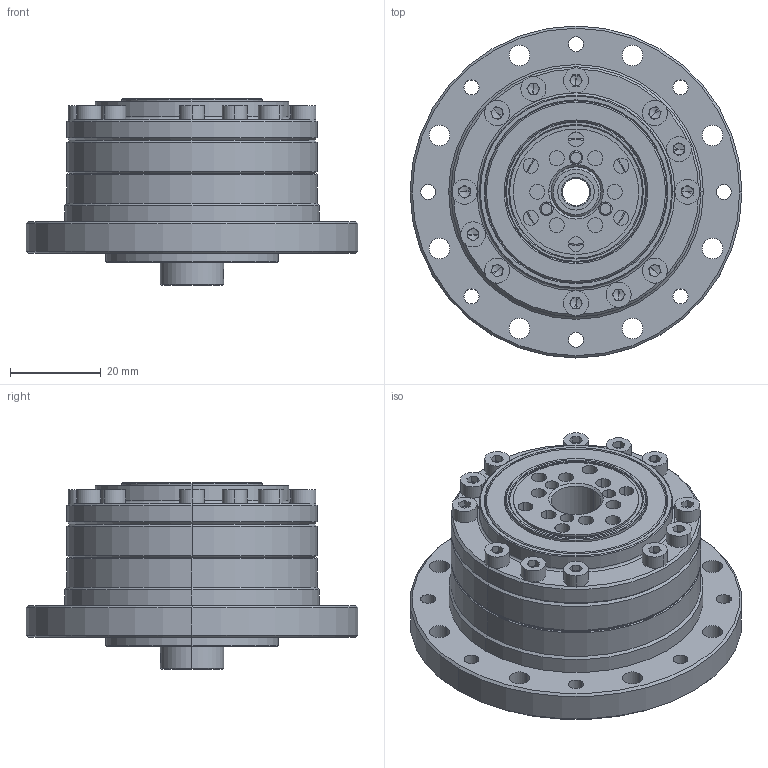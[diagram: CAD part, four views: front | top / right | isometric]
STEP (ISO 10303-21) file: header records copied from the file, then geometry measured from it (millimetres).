
FILE_DESCRIPTION (( 'STEP AP203' ), '1' );
FILE_NAME ('FCG-14-XXX-AO.STEP', '2019-04-26T08:32:32', ( '' ), ( '' ), 'SwSTEP 2.0', 'SolidWorks 2016', '' );
FILE_SCHEMA (( 'CONFIG_CONTROL_DESIGN' ));
Length unit declared in the file: millimetre
Products named in the file (1): FCG-14-XXX-AO
Bounding box: 73 x 73 x 41 mm (x, y, z)
Volume: 71149.3 mm3; surface area: 58803.9 mm2
Topology: 60 solids, 60 shells, 1148 faces, 2784 edges, 1727 vertices
Faces by surface type: cylinder 456, plane 383, cone 195, sphere 46, torus 44, bspline 24
Entity records: 33832 total; most frequent: CARTESIAN_POINT 6514, DIRECTION 6229, ORIENTED_EDGE 5258, EDGE_CURVE 2629, AXIS2_PLACEMENT_3D 2535, VERTEX_POINT 1658, CIRCLE 1410, EDGE_LOOP 1381
